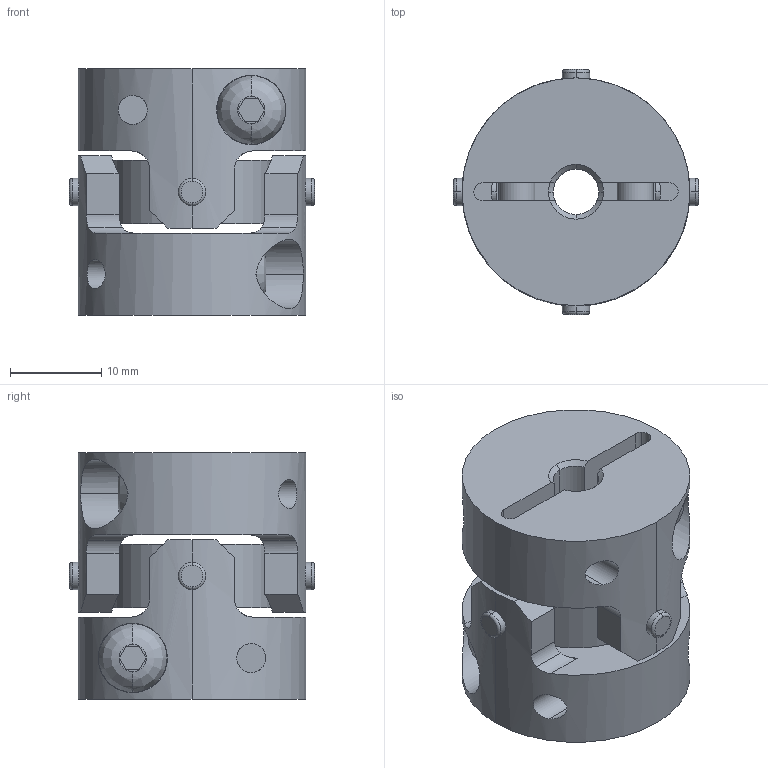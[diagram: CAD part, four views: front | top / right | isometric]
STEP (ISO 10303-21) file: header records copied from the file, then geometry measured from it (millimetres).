
FILE_DESCRIPTION((''),'2;1');
FILE_NAME('UA-25C-5×5.stp','2013-05-16T09:13:01',(''),(''),'AutoCAD STEP 2000i','AutoCAD 2000i',', , ');
FILE_SCHEMA(('CONFIG_CONTROL_DESIGN'));
Length unit declared in the file: millimetre
Products named in the file (6): UA-25C-5×5; 忣兜1; UA-2502-D05-1; BTN-M4; UA-2502-D05; UA25-SEN
Assembly tree (6 placements, depth 3):
  UA-25C-5×5
    忣兜1
    UA-2502-D05-1
      BTN-M4
    UA-2502-D05
      BTN-M4
    UA25-SEN
Bounding box: 26.89 x 26.89 x 27 mm (x, y, z)
Volume: 9489.2 mm3; surface area: 6508.4 mm2
Topology: 1 solids, 1 shells, 206 faces, 554 edges, 364 vertices
Faces by surface type: cylinder 96, plane 78, cone 16, bspline 8, torus 8
Entity records: 8291 total; most frequent: CARTESIAN_POINT 2975, ORIENTED_EDGE 1108, DIRECTION 1064, EDGE_CURVE 554, AXIS2_PLACEMENT_3D 409, VERTEX_POINT 364, VECTOR 246, LINE 246
